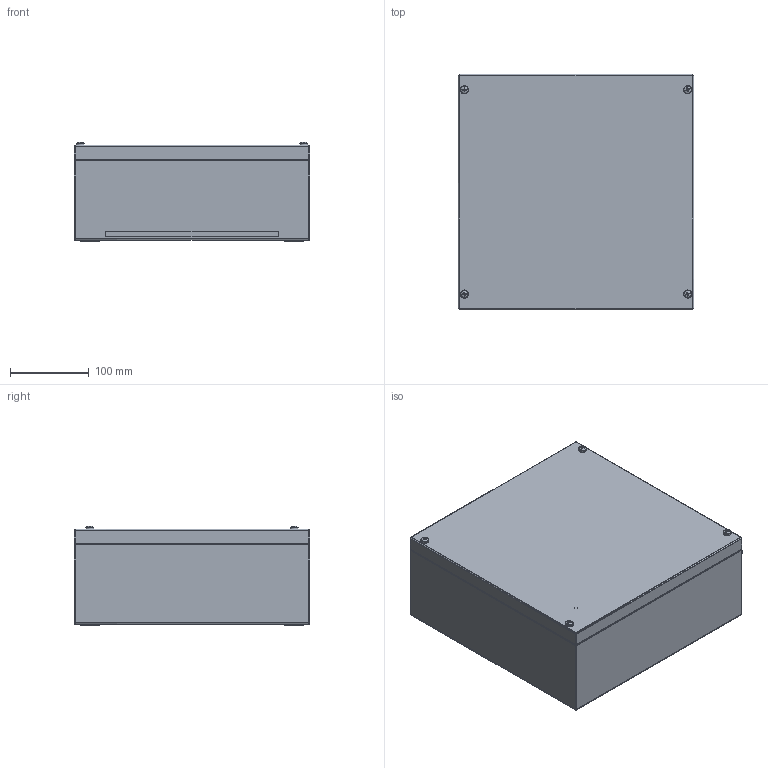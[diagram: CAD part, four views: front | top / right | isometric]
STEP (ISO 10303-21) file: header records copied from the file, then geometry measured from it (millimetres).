
FILE_DESCRIPTION (( 'STEP AP203' ), '1' );
FILE_NAME ('SS JB-300 x 300 x 121-ASSEMBLY.STEP', '2020-03-13T10:56:18', ( '' ), ( '' ), 'SwSTEP 2.0', 'SolidWorks 2018', '' );
FILE_SCHEMA (( 'CONFIG_CONTROL_DESIGN' ));
Length unit declared in the file: millimetre
Products named in the file (7): PLASTIC INSERT FOR FABRICATED ENCLOSURE; M5X33 LID SCREW; SS JB-300 x 300 x 121-LID_300 x 300 x 121; M5 BLIND NUTSERT; Dinral Mounting Channel-300; SS JB-300 x 300 x 121-ASSEMBLY; SS JB-300 x 300 x 121-BASE_300 x 300 x 121
Assembly tree (16 placements, depth 2):
  SS JB-300 x 300 x 121-ASSEMBLY
    SS JB-300 x 300 x 121-BASE_300 x 300 x 121
    SS JB-300 x 300 x 121-LID_300 x 300 x 121
    Dinral Mounting Channel-300  x2
    M5 BLIND NUTSERT  x4
    M5X33 LID SCREW  x4
    PLASTIC INSERT FOR FABRICATED ENCLOSURE  x4
Bounding box: 300 x 300 x 126.81 mm (x, y, z)
Volume: 466455.1 mm3; surface area: 756222.7 mm2
Topology: 16 solids, 16 shells, 755 faces, 1822 edges, 1132 vertices
Faces by surface type: cylinder 346, plane 265, cone 104, bspline 32, sphere 8
Entity records: 15567 total; most frequent: CARTESIAN_POINT 4976, ORIENTED_EDGE 2016, DIRECTION 1883, EDGE_CURVE 1008, AXIS2_PLACEMENT_3D 654, VERTEX_POINT 610, VECTOR 575, LINE 575
